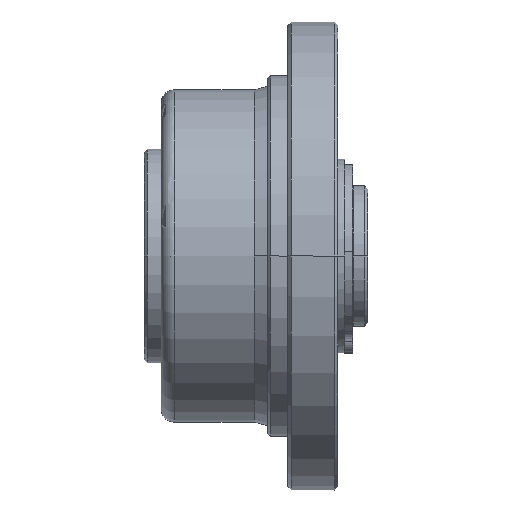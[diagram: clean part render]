
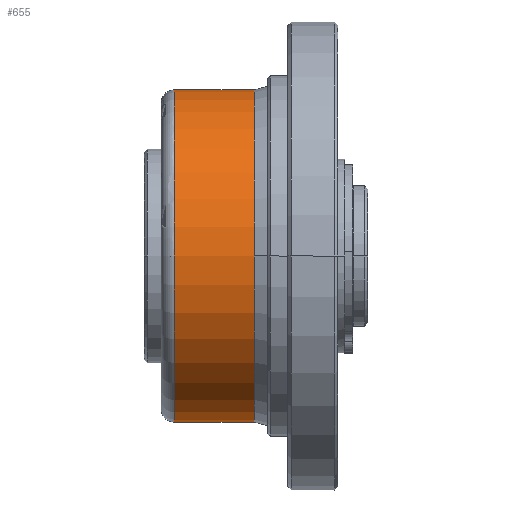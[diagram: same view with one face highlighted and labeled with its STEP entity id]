
A CAD part, front view. The second image highlights one B-rep face of the part: STEP entity #655.
In plain terms, the highlighted cylindrical face has radius 24.85 mm (diameter 49.7 mm), a partial arc.
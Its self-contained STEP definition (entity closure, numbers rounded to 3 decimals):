
#655=ADVANCED_FACE('NONE',(#1408),#1409,.T.);
#1408=FACE_OUTER_BOUND('',#2258,.T.);
#1409=CYLINDRICAL_SURFACE('',#2259,24.85);
#2258=EDGE_LOOP('',(#4044,#4045,#4046,#4047,#4048));
#2259=AXIS2_PLACEMENT_3D('',#4049,#4050,#4051);
#4044=ORIENTED_EDGE('',*,*,#5096,.F.);
#4045=ORIENTED_EDGE('',*,*,#5494,.F.);
#4046=ORIENTED_EDGE('',*,*,#5085,.F.);
#4047=ORIENTED_EDGE('',*,*,#5098,.T.);
#4048=ORIENTED_EDGE('',*,*,#5498,.T.);
#4049=CARTESIAN_POINT('',(-18.47,0.0,0.));
#4050=DIRECTION('',(1.0,0.0,0.));
#4051=DIRECTION('',(0.,0.0,1.0));
#5085=EDGE_CURVE('NONE',#6137,#6138,#6139,.T.);
#5096=EDGE_CURVE('NONE',#6152,#6154,#6155,.T.);
#5098=EDGE_CURVE('NONE',#6137,#6156,#6158,.T.);
#5494=EDGE_CURVE('NONE',#6138,#6152,#6730,.T.);
#5498=EDGE_CURVE('NONE',#6156,#6154,#6734,.T.);
#6137=VERTEX_POINT('NONE',#7569);
#6138=VERTEX_POINT('NONE',#7570);
#6139=CIRCLE('',#7571,24.85);
#6152=VERTEX_POINT('NONE',#7588);
#6154=VERTEX_POINT('NONE',#7590);
#6155=LINE('',#7591,#7592);
#6156=VERTEX_POINT('NONE',#7593);
#6158=LINE('',#7595,#7596);
#6730=CIRCLE('',#8438,24.85);
#6734=CIRCLE('',#8442,24.85);
#7569=CARTESIAN_POINT('',(-12.49,0.0,24.85));
#7570=CARTESIAN_POINT('',(-12.49,-24.85,0.));
#7571=AXIS2_PLACEMENT_3D('',#9223,#9224,#9225);
#7588=CARTESIAN_POINT('',(-12.49,0.,-24.85));
#7590=CARTESIAN_POINT('',(-24.45,0.,-24.85));
#7591=CARTESIAN_POINT('',(-18.47,0.,-24.85));
#7592=VECTOR('',#9242,1000.0);
#7593=CARTESIAN_POINT('',(-24.45,0.0,24.85));
#7595=CARTESIAN_POINT('',(-18.47,0.0,24.85));
#7596=VECTOR('',#9246,1000.0);
#8438=AXIS2_PLACEMENT_3D('',#9880,#9881,#9882);
#8442=AXIS2_PLACEMENT_3D('',#9886,#9887,#9888);
#9223=CARTESIAN_POINT('',(-12.49,0.0,0.0));
#9224=DIRECTION('',(1.0,0.,0.0));
#9225=DIRECTION('',(0.,1.0,0.0));
#9242=DIRECTION('',(-1.0,0.0,0.));
#9246=DIRECTION('',(-1.0,0.0,0.));
#9880=CARTESIAN_POINT('',(-12.49,0.0,0.0));
#9881=DIRECTION('',(1.0,0.,0.0));
#9882=DIRECTION('',(0.,1.0,0.0));
#9886=CARTESIAN_POINT('',(-24.45,0.0,0.));
#9887=DIRECTION('',(1.0,0.0,0.));
#9888=DIRECTION('',(0.,0.0,1.0));
